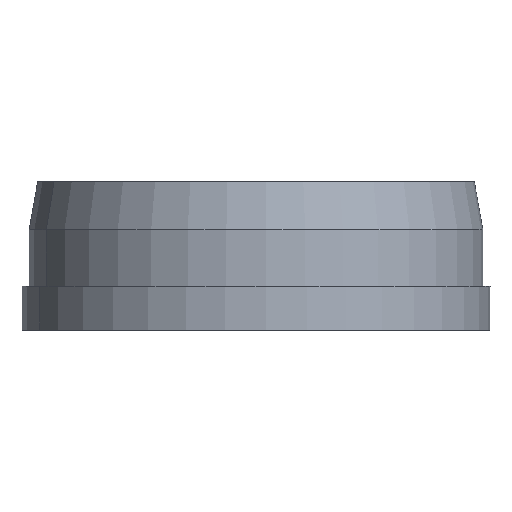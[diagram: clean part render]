
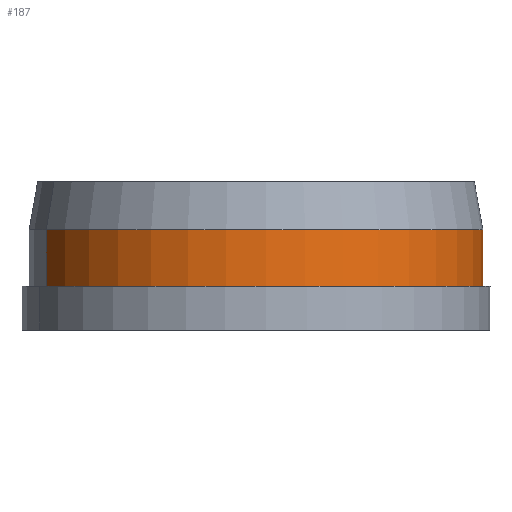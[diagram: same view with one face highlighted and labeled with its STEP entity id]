
A CAD part, left-side view. The second image highlights one B-rep face of the part: STEP entity #187.
In plain terms, the highlighted cylindrical face has radius 32.15 mm (diameter 64.3 mm), a partial arc.
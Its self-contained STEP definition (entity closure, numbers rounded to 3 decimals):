
#52=CYLINDRICAL_SURFACE('',#3510,32.15);
#187=ADVANCED_FACE('',(#390),#52,.T.);
#390=FACE_OUTER_BOUND('',#693,.F.);
#693=EDGE_LOOP('',(#997,#998,#999,#1000));
#997=ORIENTED_EDGE('',*,*,#2288,.F.);
#998=ORIENTED_EDGE('',*,*,#2296,.F.);
#999=ORIENTED_EDGE('',*,*,#2289,.T.);
#1000=ORIENTED_EDGE('',*,*,#2297,.F.);
#1842=LINE('',#5220,#2010);
#1843=LINE('',#5221,#2011);
#2010=VECTOR('',#3940,8.);
#2011=VECTOR('',#3941,8.);
#2288=EDGE_CURVE('',#3041,#3039,#1842,.T.);
#2289=EDGE_CURVE('',#3040,#3038,#1843,.T.);
#2296=EDGE_CURVE('',#3040,#3041,#2730,.T.);
#2297=EDGE_CURVE('',#3039,#3038,#2731,.T.);
#2730=CIRCLE('',#3355,32.15);
#2731=CIRCLE('',#3356,32.15);
#3038=VERTEX_POINT('',#4992);
#3039=VERTEX_POINT('',#4993);
#3040=VERTEX_POINT('',#4994);
#3041=VERTEX_POINT('',#4995);
#3355=AXIS2_PLACEMENT_3D('',#5228,#3954,#3955);
#3356=AXIS2_PLACEMENT_3D('',#5229,#3956,#3957);
#3510=AXIS2_PLACEMENT_3D('',#5547,#4428,#4429);
#3940=DIRECTION('',(0.,0.,-1.));
#3941=DIRECTION('',(0.,0.,-1.));
#3954=DIRECTION('',(0.,0.,-1.));
#3955=DIRECTION('',(0.383,-0.924,0.));
#3956=DIRECTION('',(0.,0.,1.));
#3957=DIRECTION('',(-0.383,0.924,0.));
#4428=DIRECTION('',(0.,0.,-1.));
#4429=DIRECTION('',(0.383,-0.924,0.));
#4992=CARTESIAN_POINT('',(296.678,389.504,411.684));
#4993=CARTESIAN_POINT('',(272.072,448.91,411.684));
#4994=CARTESIAN_POINT('',(296.678,389.504,419.684));
#4995=CARTESIAN_POINT('',(272.072,448.91,419.684));
#5220=CARTESIAN_POINT('',(272.072,448.91,419.684));
#5221=CARTESIAN_POINT('',(296.678,389.504,419.684));
#5228=CARTESIAN_POINT('',(284.375,419.207,419.684));
#5229=CARTESIAN_POINT('',(284.375,419.207,411.684));
#5547=CARTESIAN_POINT('',(284.375,419.207,419.684));
